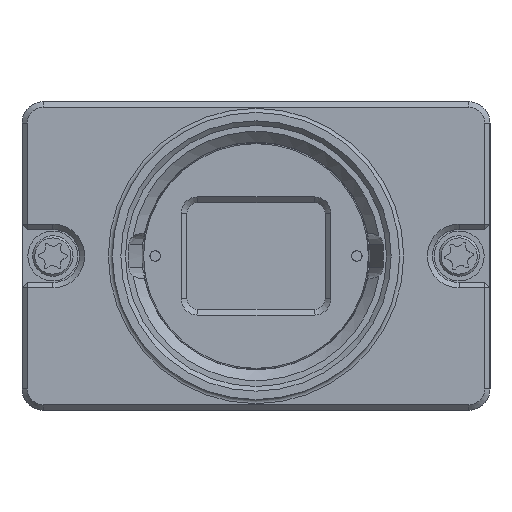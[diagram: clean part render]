
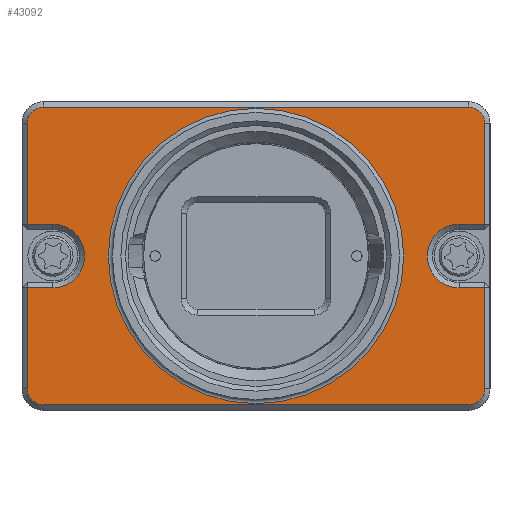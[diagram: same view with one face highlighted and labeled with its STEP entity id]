
A CAD part, front view. The second image highlights one B-rep face of the part: STEP entity #43092.
In plain terms, the highlighted planar face has unit normal (0, -1, 0).
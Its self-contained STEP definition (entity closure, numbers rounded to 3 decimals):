
#1234=FACE_BOUND('',#5403,.T.);
#1564=PLANE('',#45534);
#3072=FACE_OUTER_BOUND('',#5402,.T.);
#5402=EDGE_LOOP('',(#28502,#28503,#28504,#28505,#28506,#28507,#28508,#28509,
#28510,#28511,#28512,#28513,#28514,#28515,#28516,#28517));
#5403=EDGE_LOOP('',(#28518,#28519));
#7965=LINE('',#59943,#12419);
#7966=LINE('',#59945,#12420);
#7967=LINE('',#59949,#12421);
#7968=LINE('',#59951,#12422);
#7969=LINE('',#59955,#12423);
#7970=LINE('',#59959,#12424);
#7971=LINE('',#59961,#12425);
#7972=LINE('',#59965,#12426);
#7973=LINE('',#59967,#12427);
#7974=LINE('',#59971,#12428);
#12419=VECTOR('',#48864,10.);
#12420=VECTOR('',#48865,10.);
#12421=VECTOR('',#48868,10.);
#12422=VECTOR('',#48869,10.);
#12423=VECTOR('',#48872,10.);
#12424=VECTOR('',#48875,10.);
#12425=VECTOR('',#48876,10.);
#12426=VECTOR('',#48879,10.);
#12427=VECTOR('',#48880,10.);
#12428=VECTOR('',#48883,10.);
#16880=CIRCLE('',#45531,13.88);
#16881=CIRCLE('',#45532,13.88);
#16883=CIRCLE('',#45535,3.);
#16884=CIRCLE('',#45536,1.5);
#16885=CIRCLE('',#45537,1.5);
#16886=CIRCLE('',#45538,3.);
#16887=CIRCLE('',#45539,1.5);
#16888=CIRCLE('',#45540,1.5);
#17905=VERTEX_POINT('',#59934);
#17906=VERTEX_POINT('',#59936);
#17907=VERTEX_POINT('',#59941);
#17908=VERTEX_POINT('',#59942);
#17909=VERTEX_POINT('',#59944);
#17910=VERTEX_POINT('',#59946);
#17911=VERTEX_POINT('',#59948);
#17912=VERTEX_POINT('',#59950);
#17913=VERTEX_POINT('',#59952);
#17914=VERTEX_POINT('',#59954);
#17915=VERTEX_POINT('',#59956);
#17916=VERTEX_POINT('',#59958);
#17917=VERTEX_POINT('',#59960);
#17918=VERTEX_POINT('',#59962);
#17919=VERTEX_POINT('',#59964);
#17920=VERTEX_POINT('',#59966);
#17921=VERTEX_POINT('',#59968);
#17922=VERTEX_POINT('',#59970);
#22041=EDGE_CURVE('',#17905,#17906,#16880,.T.);
#22042=EDGE_CURVE('',#17906,#17905,#16881,.T.);
#22044=EDGE_CURVE('',#17907,#17908,#7965,.T.);
#22045=EDGE_CURVE('',#17909,#17907,#7966,.T.);
#22046=EDGE_CURVE('',#17910,#17909,#16883,.T.);
#22047=EDGE_CURVE('',#17911,#17910,#7967,.T.);
#22048=EDGE_CURVE('',#17912,#17911,#7968,.T.);
#22049=EDGE_CURVE('',#17913,#17912,#16884,.T.);
#22050=EDGE_CURVE('',#17914,#17913,#7969,.T.);
#22051=EDGE_CURVE('',#17915,#17914,#16885,.T.);
#22052=EDGE_CURVE('',#17916,#17915,#7970,.T.);
#22053=EDGE_CURVE('',#17917,#17916,#7971,.T.);
#22054=EDGE_CURVE('',#17918,#17917,#16886,.T.);
#22055=EDGE_CURVE('',#17919,#17918,#7972,.T.);
#22056=EDGE_CURVE('',#17920,#17919,#7973,.T.);
#22057=EDGE_CURVE('',#17921,#17920,#16887,.T.);
#22058=EDGE_CURVE('',#17922,#17921,#7974,.T.);
#22059=EDGE_CURVE('',#17908,#17922,#16888,.T.);
#28502=ORIENTED_EDGE('',*,*,#22044,.F.);
#28503=ORIENTED_EDGE('',*,*,#22045,.F.);
#28504=ORIENTED_EDGE('',*,*,#22046,.F.);
#28505=ORIENTED_EDGE('',*,*,#22047,.F.);
#28506=ORIENTED_EDGE('',*,*,#22048,.F.);
#28507=ORIENTED_EDGE('',*,*,#22049,.F.);
#28508=ORIENTED_EDGE('',*,*,#22050,.F.);
#28509=ORIENTED_EDGE('',*,*,#22051,.F.);
#28510=ORIENTED_EDGE('',*,*,#22052,.F.);
#28511=ORIENTED_EDGE('',*,*,#22053,.F.);
#28512=ORIENTED_EDGE('',*,*,#22054,.F.);
#28513=ORIENTED_EDGE('',*,*,#22055,.F.);
#28514=ORIENTED_EDGE('',*,*,#22056,.F.);
#28515=ORIENTED_EDGE('',*,*,#22057,.F.);
#28516=ORIENTED_EDGE('',*,*,#22058,.F.);
#28517=ORIENTED_EDGE('',*,*,#22059,.F.);
#28518=ORIENTED_EDGE('',*,*,#22042,.F.);
#28519=ORIENTED_EDGE('',*,*,#22041,.F.);
#43092=ADVANCED_FACE('',(#3072,#1234),#1564,.T.);
#45531=AXIS2_PLACEMENT_3D('',#59937,#48856,#48857);
#45532=AXIS2_PLACEMENT_3D('',#59938,#48858,#48859);
#45534=AXIS2_PLACEMENT_3D('',#59940,#48862,#48863);
#45535=AXIS2_PLACEMENT_3D('',#59947,#48866,#48867);
#45536=AXIS2_PLACEMENT_3D('',#59953,#48870,#48871);
#45537=AXIS2_PLACEMENT_3D('',#59957,#48873,#48874);
#45538=AXIS2_PLACEMENT_3D('',#59963,#48877,#48878);
#45539=AXIS2_PLACEMENT_3D('',#59969,#48881,#48882);
#45540=AXIS2_PLACEMENT_3D('',#59972,#48884,#48885);
#48856=DIRECTION('center_axis',(0.,-1.,0.));
#48857=DIRECTION('ref_axis',(1.,0.,0.));
#48858=DIRECTION('center_axis',(0.,-1.,0.));
#48859=DIRECTION('ref_axis',(1.,0.,0.));
#48862=DIRECTION('center_axis',(0.,-1.,0.));
#48863=DIRECTION('ref_axis',(-1.,0.,0.));
#48864=DIRECTION('',(0.,0.,1.));
#48865=DIRECTION('',(-1.,0.,0.));
#48866=DIRECTION('center_axis',(0.,-1.,0.));
#48867=DIRECTION('ref_axis',(1.,0.,0.));
#48868=DIRECTION('',(1.,0.,0.));
#48869=DIRECTION('',(0.,0.,1.));
#48870=DIRECTION('center_axis',(0.,1.,0.));
#48871=DIRECTION('ref_axis',(-0.707,0.,-0.707));
#48872=DIRECTION('',(-1.,0.,0.));
#48873=DIRECTION('center_axis',(0.,1.,0.));
#48874=DIRECTION('ref_axis',(0.707,0.,-0.707));
#48875=DIRECTION('',(0.,0.,-1.));
#48876=DIRECTION('',(1.,0.,0.));
#48877=DIRECTION('center_axis',(0.,-1.,0.));
#48878=DIRECTION('ref_axis',(-1.,0.,0.));
#48879=DIRECTION('',(-1.,0.,0.));
#48880=DIRECTION('',(0.,0.,-1.));
#48881=DIRECTION('center_axis',(0.,1.,0.));
#48882=DIRECTION('ref_axis',(0.707,0.,0.707));
#48883=DIRECTION('',(1.,0.,0.));
#48884=DIRECTION('center_axis',(0.,1.,0.));
#48885=DIRECTION('ref_axis',(-0.707,0.,0.707));
#59934=CARTESIAN_POINT('',(0.,-8.781,13.88));
#59936=CARTESIAN_POINT('',(-13.88,-8.781,0.));
#59937=CARTESIAN_POINT('Origin',(0.,-8.781,
0.));
#59938=CARTESIAN_POINT('Origin',(0.,-8.781,
0.));
#59940=CARTESIAN_POINT('Origin',(19.1,-8.781,0.));
#59941=CARTESIAN_POINT('',(-21.5,-8.781,3.));
#59942=CARTESIAN_POINT('',(-21.5,-8.781,12.5));
#59943=CARTESIAN_POINT('',(-21.5,-8.781,-7.25));
#59944=CARTESIAN_POINT('',(-19.1,-8.781,3.));
#59945=CARTESIAN_POINT('',(-1.45,-8.781,3.));
#59946=CARTESIAN_POINT('',(-19.1,-8.781,-3.));
#59947=CARTESIAN_POINT('Origin',(-19.1,-8.781,0.));
#59948=CARTESIAN_POINT('',(-21.5,-8.781,-3.));
#59949=CARTESIAN_POINT('',(0.,-8.781,-3.));
#59950=CARTESIAN_POINT('',(-21.5,-8.781,-12.5));
#59951=CARTESIAN_POINT('',(-21.5,-8.781,-7.25));
#59952=CARTESIAN_POINT('',(-20.,-8.781,-14.));
#59953=CARTESIAN_POINT('Origin',(-20.,-8.781,-12.5));
#59954=CARTESIAN_POINT('',(20.,-8.781,-14.));
#59955=CARTESIAN_POINT('',(20.55,-8.781,-14.));
#59956=CARTESIAN_POINT('',(21.5,-8.781,-12.5));
#59957=CARTESIAN_POINT('Origin',(20.,-8.781,-12.5));
#59958=CARTESIAN_POINT('',(21.5,-8.781,-3.));
#59959=CARTESIAN_POINT('',(21.5,-8.781,7.25));
#59960=CARTESIAN_POINT('',(19.1,-8.781,-3.));
#59961=CARTESIAN_POINT('',(20.55,-8.781,-3.));
#59962=CARTESIAN_POINT('',(19.1,-8.781,3.));
#59963=CARTESIAN_POINT('Origin',(19.1,-8.781,0.));
#59964=CARTESIAN_POINT('',(21.5,-8.781,3.));
#59965=CARTESIAN_POINT('',(19.1,-8.781,3.));
#59966=CARTESIAN_POINT('',(21.5,-8.781,12.5));
#59967=CARTESIAN_POINT('',(21.5,-8.781,7.25));
#59968=CARTESIAN_POINT('',(20.,-8.781,14.));
#59969=CARTESIAN_POINT('Origin',(20.,-8.781,12.5));
#59970=CARTESIAN_POINT('',(-20.,-8.781,14.));
#59971=CARTESIAN_POINT('',(-1.45,-8.781,14.));
#59972=CARTESIAN_POINT('Origin',(-20.,-8.781,12.5));
